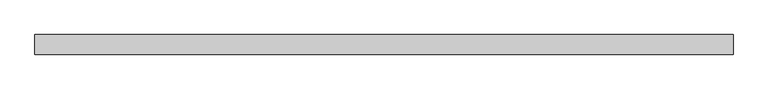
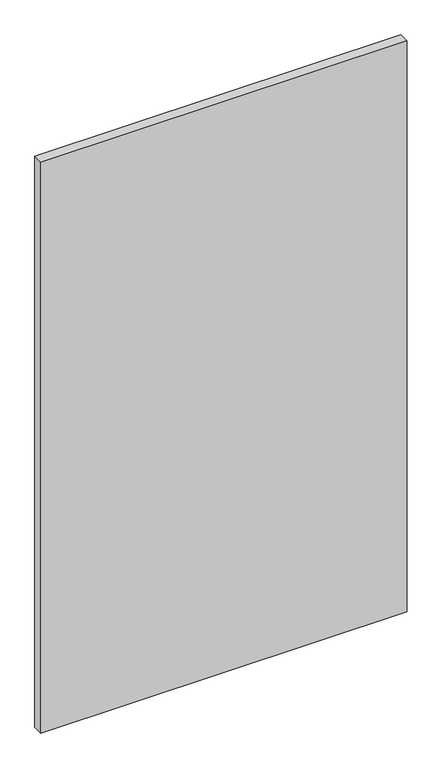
"""IFC4 building model written with IfcOpenShell, lengths in millimetres: plate geometry, Vitré."""

from ifc_helpers import new_model, si_unit, origin, origin_with_axes, place, context, project, spatial, polyline, outline, extrude, source, transform, mapped, element, save


def plate_8017ff74(model_context):
    return source(origin(), model_context, "Body", "SweptSolid", [
        extrude(outline(polyline([(-695.65625, -20.0), (-695.65625, 20.0), (695.65625, 20.0), (695.65625, -20.0), (-695.65625, -20.0)])), origin_with_axes(), (0.0, 0.0, 1.0), 2292.625),
    ])


if __name__ == "__main__":
    model = new_model("IFC4")
    model_context = context("Model", 3, world=origin())
    ifc_project = project(units=[si_unit("LENGTHUNIT", "METRE", prefix="MILLI")], contexts=[model_context])
    site = spatial("IfcSite", under=ifc_project)
    building = spatial("IfcBuilding", under=site)
    placement = place(None, origin())
    plate_shape = plate_8017ff74(model_context)
    element("IfcPlate", 1, ObjectType="Vitré", at=placement, inside=building, context=model_context, shape_type="MappedRepresentation", body=[
        mapped(plate_shape, transform((0.0, 0.0, 0.0), x_axis=(1.0, 0.0, 0.0), y_axis=(0.0, 1.0, 0.0), z_axis=(0.0, 0.0, 1.0))),
    ])
    save(model, "model.ifc")
